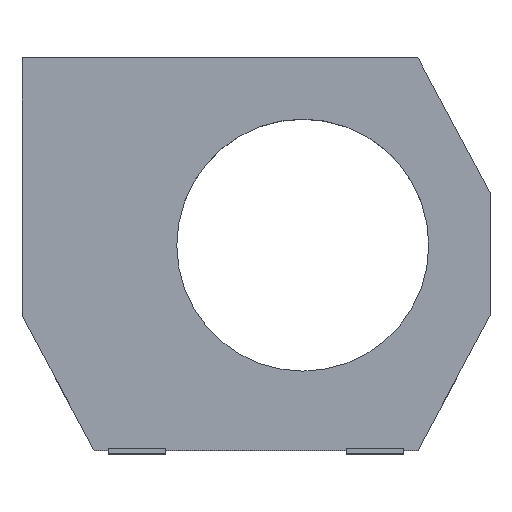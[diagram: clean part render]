
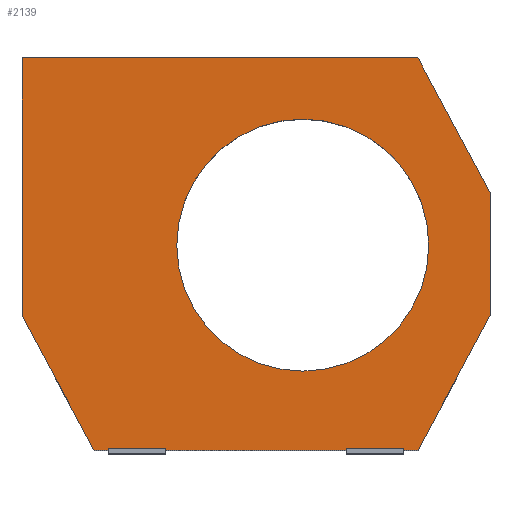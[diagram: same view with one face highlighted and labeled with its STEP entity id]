
A CAD part, top view. The second image highlights one B-rep face of the part: STEP entity #2139.
In plain terms, the highlighted planar face has unit normal (0, 0, 1).
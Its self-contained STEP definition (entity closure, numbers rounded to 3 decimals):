
#145 = VERTEX_POINT ( 'NONE', #1432 ) ;
#147 = DIRECTION ( 'NONE',  ( 1., 0., 0. ) ) ;
#184 = EDGE_CURVE ( 'NONE', #688, #947, #3710, .T. ) ;
#215 = VECTOR ( 'NONE', #1267, 1000. ) ;
#494 = VERTEX_POINT ( 'NONE', #2814 ) ;
#512 = DIRECTION ( 'NONE',  ( 0.471, -0.882, 0. ) ) ;
#559 = CARTESIAN_POINT ( 'NONE',  ( 110., 1., 33. ) ) ;
#688 = VERTEX_POINT ( 'NONE', #2519 ) ;
#697 = CIRCLE ( 'NONE', #1056, 35. ) ;
#748 = CARTESIAN_POINT ( 'NONE',  ( 110., 1., 33. ) ) ;
#767 = EDGE_CURVE ( 'NONE', #947, #1681, #1138, .T. ) ;
#769 = FACE_BOUND ( 'NONE', #2483, .T. ) ;
#775 = CARTESIAN_POINT ( 'NONE',  ( 0., 110., 33. ) ) ;
#886 = CARTESIAN_POINT ( 'NONE',  ( 78., 58., 33. ) ) ;
#933 = VECTOR ( 'NONE', #3286, 1000. ) ;
#947 = VERTEX_POINT ( 'NONE', #748 ) ;
#960 = EDGE_LOOP ( 'NONE', ( #3272, #1641, #1782, #1419, #3921, #4065, #1072 ) ) ;
#976 = EDGE_CURVE ( 'NONE', #145, #2466, #1904, .T. ) ;
#1056 = AXIS2_PLACEMENT_3D ( 'NONE', #1300, #3674, #1658 ) ;
#1072 = ORIENTED_EDGE ( 'NONE', *, *, #2244, .T. ) ;
#1138 = LINE ( 'NONE', #2650, #215 ) ;
#1204 = CARTESIAN_POINT ( 'NONE',  ( 130., 38.5, 33. ) ) ;
#1267 = DIRECTION ( 'NONE',  ( 0.471, 0.882, 0. ) ) ;
#1300 = CARTESIAN_POINT ( 'NONE',  ( 78., 58., 33. ) ) ;
#1367 = AXIS2_PLACEMENT_3D ( 'NONE', #2481, #2927, #1601 ) ;
#1371 = ORIENTED_EDGE ( 'NONE', *, *, #3175, .F. ) ;
#1398 = CARTESIAN_POINT ( 'NONE',  ( 130., 72.5, 33. ) ) ;
#1419 = ORIENTED_EDGE ( 'NONE', *, *, #2682, .T. ) ;
#1432 = CARTESIAN_POINT ( 'NONE',  ( 113., 58., 33. ) ) ;
#1476 = CARTESIAN_POINT ( 'NONE',  ( 110., 110., 33. ) ) ;
#1601 = DIRECTION ( 'NONE',  ( -1., 0., 0. ) ) ;
#1641 = ORIENTED_EDGE ( 'NONE', *, *, #767, .T. ) ;
#1658 = DIRECTION ( 'NONE',  ( 1., 0., 0. ) ) ;
#1663 = EDGE_CURVE ( 'NONE', #3798, #494, #3049, .T. ) ;
#1681 = VERTEX_POINT ( 'NONE', #1204 ) ;
#1782 = ORIENTED_EDGE ( 'NONE', *, *, #3036, .T. ) ;
#1794 = LINE ( 'NONE', #3757, #3490 ) ;
#1814 = DIRECTION ( 'NONE',  ( -0.471, 0.882, 0. ) ) ;
#1816 = PLANE ( 'NONE',  #1367 ) ;
#1844 = DIRECTION ( 'NONE',  ( 0., 0., 1. ) ) ;
#1904 = CIRCLE ( 'NONE', #2377, 35. ) ;
#1924 = VECTOR ( 'NONE', #147, 1000. ) ;
#1985 = VECTOR ( 'NONE', #512, 1000. ) ;
#2045 = VECTOR ( 'NONE', #4189, 1000. ) ;
#2050 = VERTEX_POINT ( 'NONE', #1398 ) ;
#2081 = DIRECTION ( 'NONE',  ( 0., 1., 0. ) ) ;
#2139 = ADVANCED_FACE ( 'NONE', ( #769, #2144 ), #1816, .F. ) ;
#2144 = FACE_OUTER_BOUND ( 'NONE', #960, .T. ) ;
#2192 = LINE ( 'NONE', #1476, #3879 ) ;
#2244 = EDGE_CURVE ( 'NONE', #2287, #688, #2881, .T. ) ;
#2264 = EDGE_CURVE ( 'NONE', #494, #2287, #3671, .T. ) ;
#2287 = VERTEX_POINT ( 'NONE', #2525 ) ;
#2377 = AXIS2_PLACEMENT_3D ( 'NONE', #886, #1844, #2982 ) ;
#2461 = ORIENTED_EDGE ( 'NONE', *, *, #976, .F. ) ;
#2466 = VERTEX_POINT ( 'NONE', #3064 ) ;
#2481 = CARTESIAN_POINT ( 'NONE',  ( 0., 0., 33. ) ) ;
#2483 = EDGE_LOOP ( 'NONE', ( #2461, #1371 ) ) ;
#2519 = CARTESIAN_POINT ( 'NONE',  ( 20., 1., 33. ) ) ;
#2525 = CARTESIAN_POINT ( 'NONE',  ( 0., 38.5, 33. ) ) ;
#2650 = CARTESIAN_POINT ( 'NONE',  ( 130., 38.5, 33. ) ) ;
#2682 = EDGE_CURVE ( 'NONE', #2050, #3798, #2192, .T. ) ;
#2814 = CARTESIAN_POINT ( 'NONE',  ( 0., 110., 33. ) ) ;
#2881 = LINE ( 'NONE', #3189, #1985 ) ;
#2927 = DIRECTION ( 'NONE',  ( 0., 0., -1. ) ) ;
#2933 = CARTESIAN_POINT ( 'NONE',  ( 0., 38.5, 33. ) ) ;
#2982 = DIRECTION ( 'NONE',  ( 1., 0., 0. ) ) ;
#3036 = EDGE_CURVE ( 'NONE', #1681, #2050, #1794, .T. ) ;
#3049 = LINE ( 'NONE', #775, #2045 ) ;
#3064 = CARTESIAN_POINT ( 'NONE',  ( 43., 58., 33. ) ) ;
#3078 = CARTESIAN_POINT ( 'NONE',  ( 110., 110., 33. ) ) ;
#3175 = EDGE_CURVE ( 'NONE', #2466, #145, #697, .T. ) ;
#3189 = CARTESIAN_POINT ( 'NONE',  ( 20., 1., 33. ) ) ;
#3272 = ORIENTED_EDGE ( 'NONE', *, *, #184, .T. ) ;
#3286 = DIRECTION ( 'NONE',  ( 0., -1., 0. ) ) ;
#3490 = VECTOR ( 'NONE', #2081, 1000. ) ;
#3671 = LINE ( 'NONE', #2933, #933 ) ;
#3674 = DIRECTION ( 'NONE',  ( 0., 0., 1. ) ) ;
#3710 = LINE ( 'NONE', #559, #1924 ) ;
#3757 = CARTESIAN_POINT ( 'NONE',  ( 130., 72.5, 33. ) ) ;
#3798 = VERTEX_POINT ( 'NONE', #3078 ) ;
#3879 = VECTOR ( 'NONE', #1814, 1000. ) ;
#3921 = ORIENTED_EDGE ( 'NONE', *, *, #1663, .T. ) ;
#4065 = ORIENTED_EDGE ( 'NONE', *, *, #2264, .T. ) ;
#4189 = DIRECTION ( 'NONE',  ( -1., 0., 0. ) ) ;
